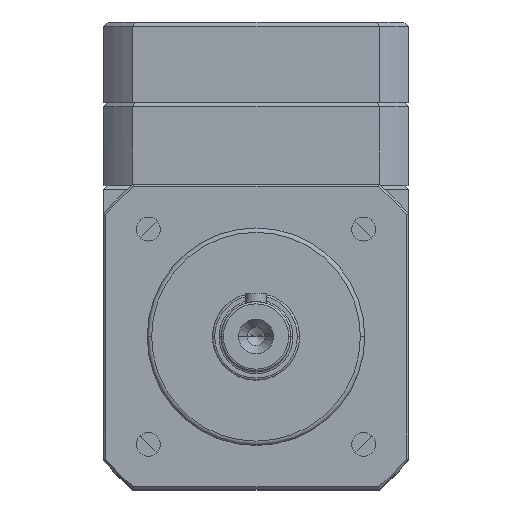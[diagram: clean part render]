
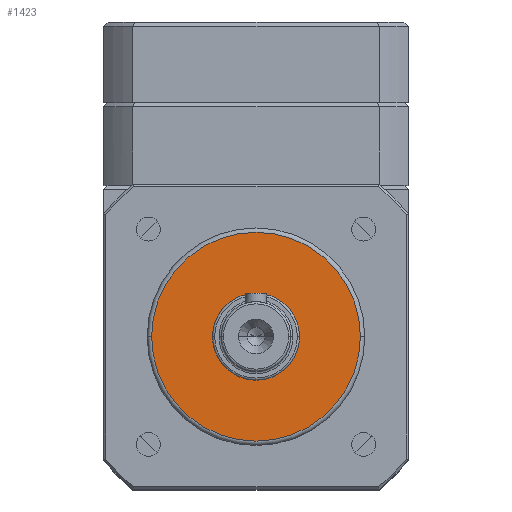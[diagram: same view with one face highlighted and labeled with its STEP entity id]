
A CAD part, top view. The second image highlights one B-rep face of the part: STEP entity #1423.
In plain terms, the highlighted planar face has unit normal (0, 0, 1).
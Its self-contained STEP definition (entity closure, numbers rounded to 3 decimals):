
#58 = DIRECTION ( 'NONE',  ( 1., 0., 0. ) ) ;
#211 = CIRCLE ( 'NONE', #3449, 24. ) ;
#711 = ORIENTED_EDGE ( 'NONE', *, *, #10007, .F. ) ;
#733 = CARTESIAN_POINT ( 'NONE',  ( 0., 0., 6.5 ) ) ;
#780 = CARTESIAN_POINT ( 'NONE',  ( -24., 0., 6.5 ) ) ;
#866 = CARTESIAN_POINT ( 'NONE',  ( -10., 0., 6.5 ) ) ;
#1294 = CARTESIAN_POINT ( 'NONE',  ( 0., 0., 6.5 ) ) ;
#1423 = ADVANCED_FACE ( 'NONE', ( #2455, #2711 ), #4299, .T. ) ;
#1566 = DIRECTION ( 'NONE',  ( 1., 0., 0. ) ) ;
#2027 = ORIENTED_EDGE ( 'NONE', *, *, #6496, .T. ) ;
#2147 = DIRECTION ( 'NONE',  ( 1., 0., 0. ) ) ;
#2210 = DIRECTION ( 'NONE',  ( 0., 0., 1. ) ) ;
#2388 = EDGE_LOOP ( 'NONE', ( #711, #10159 ) ) ;
#2452 = CARTESIAN_POINT ( 'NONE',  ( 10., 0., 6.5 ) ) ;
#2455 = FACE_BOUND ( 'NONE', #2388, .T. ) ;
#2711 = FACE_OUTER_BOUND ( 'NONE', #7274, .T. ) ;
#3449 = AXIS2_PLACEMENT_3D ( 'NONE', #1294, #7146, #2147 ) ;
#3648 = VERTEX_POINT ( 'NONE', #866 ) ;
#3881 = CIRCLE ( 'NONE', #9086, 24. ) ;
#3932 = VERTEX_POINT ( 'NONE', #6280 ) ;
#4229 = CIRCLE ( 'NONE', #8276, 10. ) ;
#4299 = PLANE ( 'NONE',  #7485 ) ;
#4388 = DIRECTION ( 'NONE',  ( 0., 0., 1. ) ) ;
#4712 = EDGE_CURVE ( 'NONE', #3648, #8994, #4229, .T. ) ;
#6280 = CARTESIAN_POINT ( 'NONE',  ( 24., 0., 6.5 ) ) ;
#6496 = EDGE_CURVE ( 'NONE', #7930, #3932, #211, .T. ) ;
#6552 = EDGE_CURVE ( 'NONE', #3932, #7930, #3881, .T. ) ;
#6603 = DIRECTION ( 'NONE',  ( 0., 0., 1. ) ) ;
#7146 = DIRECTION ( 'NONE',  ( 0., 0., 1. ) ) ;
#7222 = CARTESIAN_POINT ( 'NONE',  ( 0., 0., 6.5 ) ) ;
#7274 = EDGE_LOOP ( 'NONE', ( #9983, #2027 ) ) ;
#7451 = CIRCLE ( 'NONE', #10569, 10. ) ;
#7485 = AXIS2_PLACEMENT_3D ( 'NONE', #9350, #7663, #58 ) ;
#7663 = DIRECTION ( 'NONE',  ( 0., 0., 1. ) ) ;
#7930 = VERTEX_POINT ( 'NONE', #780 ) ;
#8064 = DIRECTION ( 'NONE',  ( 1., 0., 0. ) ) ;
#8276 = AXIS2_PLACEMENT_3D ( 'NONE', #9422, #4388, #10259 ) ;
#8994 = VERTEX_POINT ( 'NONE', #2452 ) ;
#9086 = AXIS2_PLACEMENT_3D ( 'NONE', #7222, #2210, #8064 ) ;
#9350 = CARTESIAN_POINT ( 'NONE',  ( 0., 0., 6.5 ) ) ;
#9422 = CARTESIAN_POINT ( 'NONE',  ( 0., 0., 6.5 ) ) ;
#9983 = ORIENTED_EDGE ( 'NONE', *, *, #6552, .T. ) ;
#10007 = EDGE_CURVE ( 'NONE', #8994, #3648, #7451, .T. ) ;
#10159 = ORIENTED_EDGE ( 'NONE', *, *, #4712, .F. ) ;
#10259 = DIRECTION ( 'NONE',  ( 1., 0., 0. ) ) ;
#10569 = AXIS2_PLACEMENT_3D ( 'NONE', #733, #6603, #1566 ) ;
